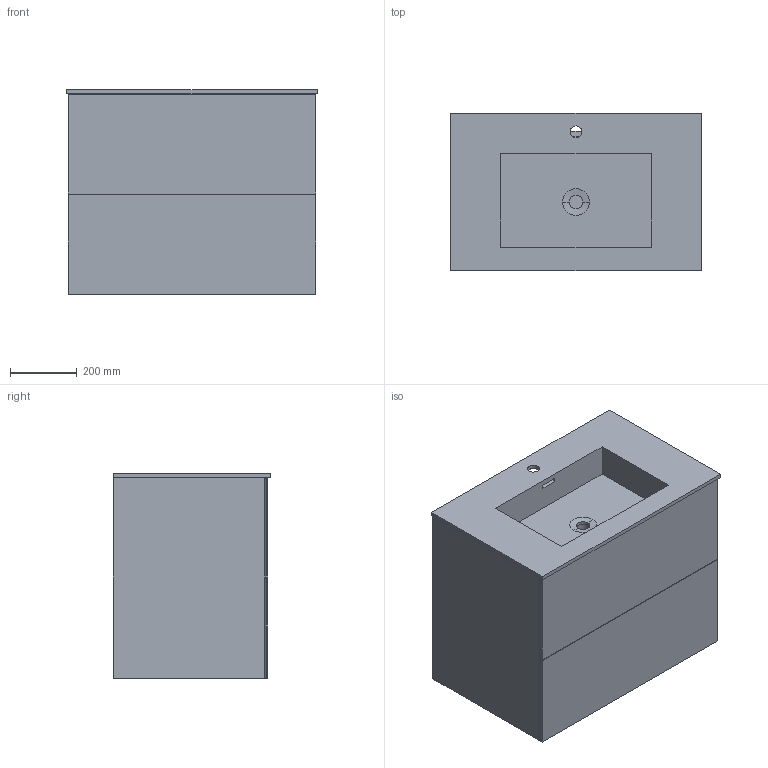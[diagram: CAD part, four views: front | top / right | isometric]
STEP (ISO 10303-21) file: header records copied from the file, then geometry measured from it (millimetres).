
FILE_DESCRIPTION (( 'STEP AP214' ), '1' );
FILE_NAME ('BLANCHE-750.STEP', '2020-07-02T00:12:41', ( '' ), ( '' ), 'SwSTEP 2.0', 'SolidWorks 2020', '' );
FILE_SCHEMA (( 'AUTOMOTIVE_DESIGN' ));
Length unit declared in the file: millimetre
Products named in the file (5): BLANCHE-750; terwbnehuertyewfggbgweertw; BLANCHE-750-brackets; rewgerwtrwtwtwfqwdreqw
Assembly tree (4 placements, depth 2):
  BLANCHE-750
    rewgerwtrwtwtwfqwdreqw
    terwbnehuertyewfggbgweertw
    BLANCHE-750
    BLANCHE-750-brackets
Bounding box: 750 x 470 x 612 mm (x, y, z)
Volume: 42053950.5 mm3; surface area: 6083588 mm2
Topology: 28 solids, 28 shells, 300 faces, 718 edges, 478 vertices
Faces by surface type: plane 214, cylinder 84, cone 2
Entity records: 9198 total; most frequent: CARTESIAN_POINT 1503, DIRECTION 1502, ORIENTED_EDGE 1436, EDGE_CURVE 718, LINE 548, VECTOR 548, VERTEX_POINT 478, AXIS2_PLACEMENT_3D 477
